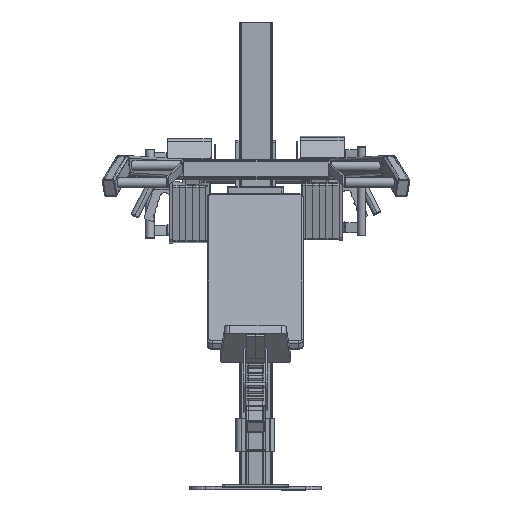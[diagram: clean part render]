
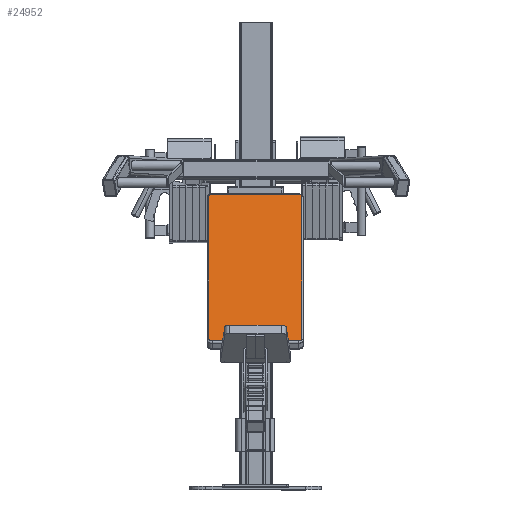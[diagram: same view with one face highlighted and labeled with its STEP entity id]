
A CAD part, top view. The second image highlights one B-rep face of the part: STEP entity #24952.
In plain terms, the highlighted planar face has unit normal (0, 0.866, 0.5).
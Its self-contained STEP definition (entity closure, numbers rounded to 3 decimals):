
#865=PLANE('',#26789);
#1808=FACE_OUTER_BOUND('',#3343,.T.);
#3343=EDGE_LOOP('',(#17913,#17914,#17915,#17916,#17917,#17918,#17919,#17920));
#5122=LINE('',#38257,#7454);
#5124=LINE('',#38269,#7456);
#5126=LINE('',#38279,#7458);
#5127=LINE('',#38285,#7459);
#7454=VECTOR('',#30411,10.);
#7456=VECTOR('',#30425,10.);
#7458=VECTOR('',#30439,10.);
#7459=VECTOR('',#30448,10.);
#9592=CIRCLE('',#26767,10.);
#9595=CIRCLE('',#26772,10.);
#9599=CIRCLE('',#26778,10.);
#9603=CIRCLE('',#26784,10.);
#10958=VERTEX_POINT('',#38248);
#10959=VERTEX_POINT('',#38250);
#10961=VERTEX_POINT('',#38255);
#10963=VERTEX_POINT('',#38261);
#10965=VERTEX_POINT('',#38267);
#10966=VERTEX_POINT('',#38272);
#10967=VERTEX_POINT('',#38277);
#10968=VERTEX_POINT('',#38281);
#13538=EDGE_CURVE('',#10959,#10958,#9592,.T.);
#13540=EDGE_CURVE('',#10961,#10959,#5122,.T.);
#13543=EDGE_CURVE('',#10963,#10961,#9595,.T.);
#13546=EDGE_CURVE('',#10965,#10963,#5124,.T.);
#13549=EDGE_CURVE('',#10966,#10965,#9599,.T.);
#13552=EDGE_CURVE('',#10967,#10966,#5126,.T.);
#13554=EDGE_CURVE('',#10968,#10967,#9603,.T.);
#13555=EDGE_CURVE('',#10958,#10968,#5127,.T.);
#17913=ORIENTED_EDGE('',*,*,#13538,.F.);
#17914=ORIENTED_EDGE('',*,*,#13540,.F.);
#17915=ORIENTED_EDGE('',*,*,#13543,.F.);
#17916=ORIENTED_EDGE('',*,*,#13546,.F.);
#17917=ORIENTED_EDGE('',*,*,#13549,.F.);
#17918=ORIENTED_EDGE('',*,*,#13552,.F.);
#17919=ORIENTED_EDGE('',*,*,#13554,.F.);
#17920=ORIENTED_EDGE('',*,*,#13555,.F.);
#24952=ADVANCED_FACE('',(#1808),#865,.T.);
#26767=AXIS2_PLACEMENT_3D('',#38252,#30405,#30406);
#26772=AXIS2_PLACEMENT_3D('',#38263,#30417,#30418);
#26778=AXIS2_PLACEMENT_3D('',#38274,#30431,#30432);
#26784=AXIS2_PLACEMENT_3D('',#38283,#30444,#30445);
#26789=AXIS2_PLACEMENT_3D('',#38292,#30458,#30459);
#30405=DIRECTION('center_axis',(0.,-0.866,
-0.5));
#30406=DIRECTION('ref_axis',(0.707,-0.354,0.612));
#30411=DIRECTION('',(0.,-0.5,0.866));
#30417=DIRECTION('center_axis',(0.,-0.866,
-0.5));
#30418=DIRECTION('ref_axis',(0.707,0.354,-0.612));
#30425=DIRECTION('',(1.,0.,0.));
#30431=DIRECTION('center_axis',(0.,-0.866,
-0.5));
#30432=DIRECTION('ref_axis',(-0.707,0.354,-0.612));
#30439=DIRECTION('',(0.,0.5,-0.866));
#30444=DIRECTION('center_axis',(0.,-0.866,
-0.5));
#30445=DIRECTION('ref_axis',(-0.707,-0.354,0.612));
#30448=DIRECTION('',(-1.,0.,0.));
#30458=DIRECTION('center_axis',(0.,0.866,
0.5));
#30459=DIRECTION('ref_axis',(0.,0.5,-0.866));
#38248=CARTESIAN_POINT('',(-71.,444.583,2142.984));
#38250=CARTESIAN_POINT('',(-61.,449.583,2134.323));
#38252=CARTESIAN_POINT('Origin',(-71.,449.583,2134.323));
#38255=CARTESIAN_POINT('',(-61.,884.583,1380.881));
#38257=CARTESIAN_POINT('',(-61.,662.958,1764.747));
#38261=CARTESIAN_POINT('',(-71.,889.583,1372.221));
#38263=CARTESIAN_POINT('Origin',(-71.,884.583,1380.881));
#38267=CARTESIAN_POINT('',(-331.,889.583,1372.221));
#38269=CARTESIAN_POINT('',(-177.5,889.583,1372.221));
#38272=CARTESIAN_POINT('',(-341.,884.583,1380.881));
#38274=CARTESIAN_POINT('Origin',(-331.,884.583,1380.881));
#38277=CARTESIAN_POINT('',(-341.,449.583,2134.323));
#38279=CARTESIAN_POINT('',(-341.,423.708,2179.14));
#38281=CARTESIAN_POINT('',(-331.,444.583,2142.984));
#38283=CARTESIAN_POINT('Origin',(-331.,449.583,2134.323));
#38285=CARTESIAN_POINT('',(-34.5,444.583,2142.984));
#38292=CARTESIAN_POINT('Origin',(-11.,419.583,2186.285));
